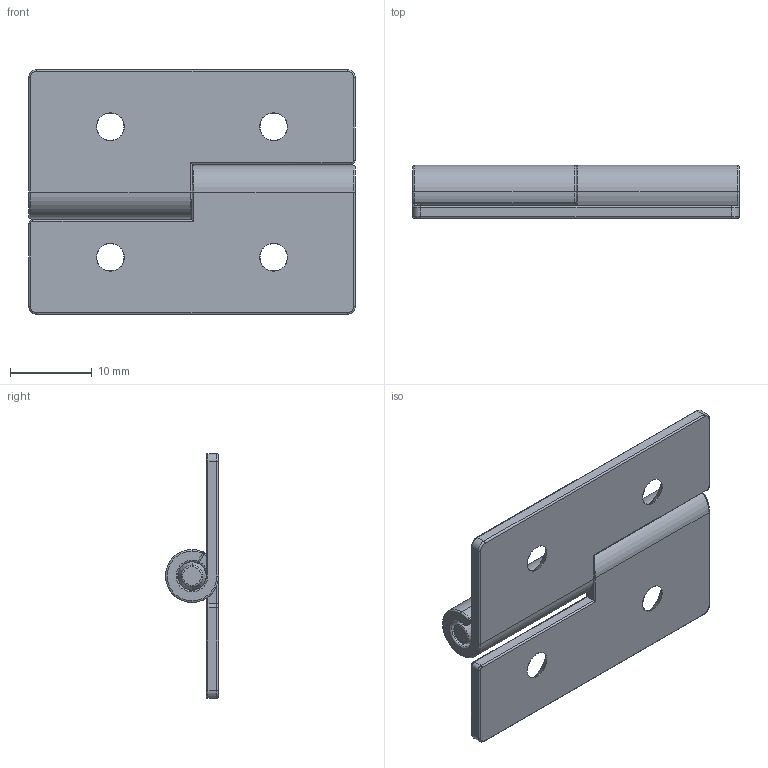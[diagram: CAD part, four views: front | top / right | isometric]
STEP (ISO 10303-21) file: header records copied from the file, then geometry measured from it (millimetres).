
FILE_DESCRIPTION (( 'STEP AP203' ), '1' );
FILE_NAME ('HGS-25309-L.STEP', '2017-08-04T06:44:45', ( '' ), ( '' ), 'SwSTEP 2.0', 'SolidWorks 2010', '' );
FILE_SCHEMA (( 'CONFIG_CONTROL_DESIGN' ));
Length unit declared in the file: millimetre
Products named in the file (3): HGS-25309-L; 插銷; 左開鉸鏈片
Assembly tree (3 placements, depth 2):
  HGS-25309-L
    左開鉸鏈片  x2
    插銷
Bounding box: 40 x 6.5 x 30 mm (x, y, z)
Volume: 2641.4 mm3; surface area: 3945.1 mm2
Topology: 3 solids, 3 shells, 154 faces, 340 edges, 188 vertices
Faces by surface type: torus 66, cylinder 50, plane 18, sphere 10, cone 10
Entity records: 2581 total; most frequent: DIRECTION 478, CARTESIAN_POINT 370, ORIENTED_EDGE 354, AXIS2_PLACEMENT_3D 214, EDGE_CURVE 177, CIRCLE 125, VERTEX_POINT 98, EDGE_LOOP 87
